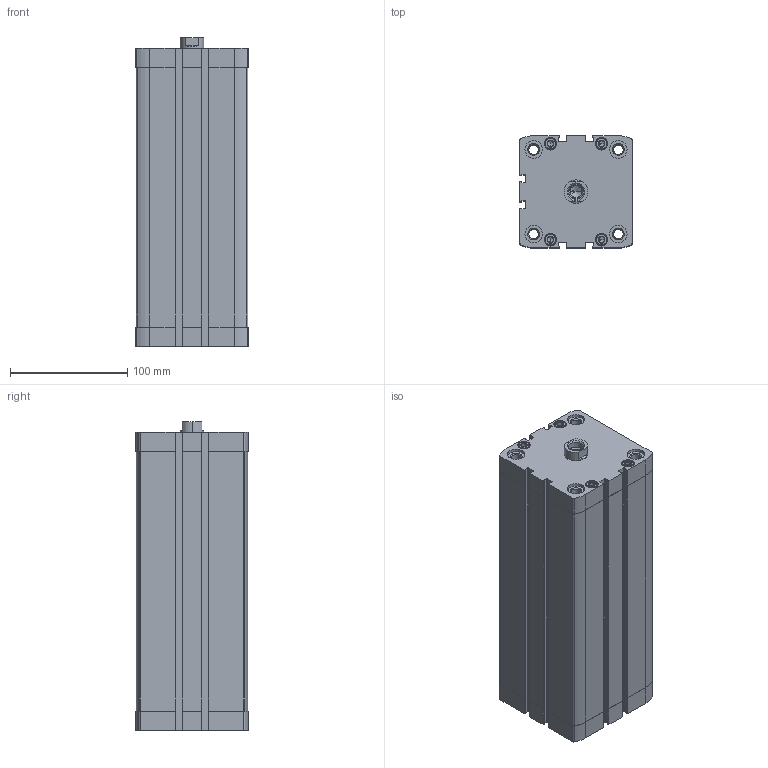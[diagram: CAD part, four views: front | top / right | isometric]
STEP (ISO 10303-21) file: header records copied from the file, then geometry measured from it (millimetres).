
FILE_DESCRIPTION (( 'STEP AP203' ), '1' );
FILE_NAME ('CCN80-200F.STEP', '2017-04-05T19:54:11', ( '' ), ( '' ), 'SwSTEP 2.0', 'SolidWorks 2016', '' );
FILE_SCHEMA (( 'CONFIG_CONTROL_DESIGN' ));
Length unit declared in the file: millimetre
Products named in the file (3): CCN-200---(Z); CCN-200_(KS); CCN80-200F
Assembly tree (2 placements, depth 2):
  CCN80-200F
    CCN-200---(Z)
    CCN-200_(KS)
Bounding box: 95.5 x 95.5 x 262.9 mm (x, y, z)
Volume: 1226109.3 mm3; surface area: 257707.3 mm2
Topology: 2 solids, 2 shells, 487 faces, 1230 edges, 777 vertices
Faces by surface type: plane 227, cylinder 186, cone 74
Entity records: 15261 total; most frequent: CARTESIAN_POINT 3031, DIRECTION 2612, ORIENTED_EDGE 2424, EDGE_CURVE 1212, AXIS2_PLACEMENT_3D 974, VERTEX_POINT 777, VECTOR 664, LINE 664
